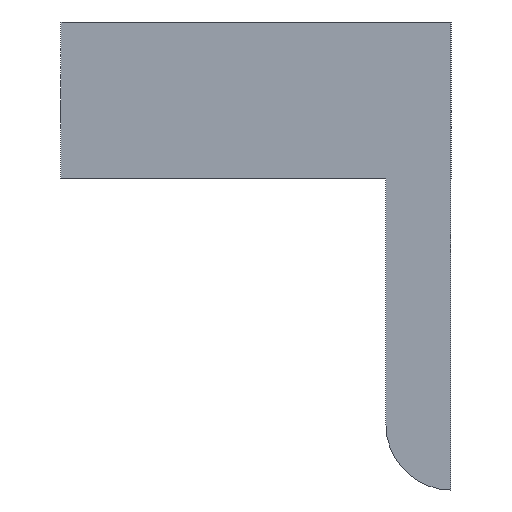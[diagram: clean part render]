
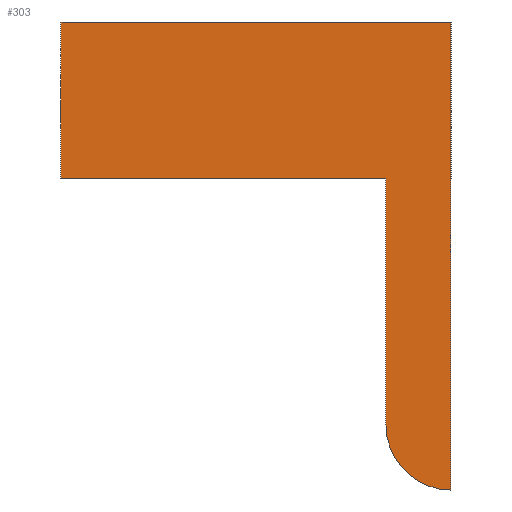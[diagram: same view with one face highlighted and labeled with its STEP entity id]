
A CAD part, left-side view. The second image highlights one B-rep face of the part: STEP entity #303.
In plain terms, the highlighted planar face has unit normal (-1, 0, 0).
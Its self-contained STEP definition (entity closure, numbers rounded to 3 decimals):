
#143 = EDGE_CURVE( '', #191, #177, #386, .T. );
#177 = VERTEX_POINT( '', #423 );
#185 = VERTEX_POINT( '', #431 );
#191 = VERTEX_POINT( '', #439 );
#193 = EDGE_CURVE( '', #357, #261, #441, .T. );
#241 = EDGE_CURVE( '', #265, #357, #492, .T. );
#257 = EDGE_CURVE( '', #177, #265, #509, .T. );
#261 = VERTEX_POINT( '', #513 );
#265 = VERTEX_POINT( '', #517 );
#303 = ADVANCED_FACE( '', ( #559 ), #560, .T. );
#317 = EDGE_CURVE( '', #185, #191, #575, .T. );
#339 = EDGE_CURVE( '', #261, #185, #599, .T. );
#357 = VERTEX_POINT( '', #621 );
#386 = LINE( '', #644, #645 );
#423 = CARTESIAN_POINT( '', ( -4.5, -30., 6. ) );
#431 = CARTESIAN_POINT( '', ( -4.5, -25., -25. ) );
#439 = CARTESIAN_POINT( '', ( -4.5, -30., -30. ) );
#441 = LINE( '', #724, #725 );
#492 = LINE( '', #800, #801 );
#509 = LINE( '', #822, #823 );
#513 = CARTESIAN_POINT( '', ( -4.5, -25., -6. ) );
#517 = CARTESIAN_POINT( '', ( -4.5, 0., 6. ) );
#559 = FACE_OUTER_BOUND( '', #894, .T. );
#560 = PLANE( '', #895 );
#575 = CIRCLE( '', #913, 5. );
#599 = LINE( '', #939, #940 );
#621 = CARTESIAN_POINT( '', ( -4.5, 0., -6. ) );
#644 = CARTESIAN_POINT( '', ( -4.5, -30., -30. ) );
#645 = VECTOR( '', #987, 1. );
#724 = CARTESIAN_POINT( '', ( -4.5, 0., -6. ) );
#725 = VECTOR( '', #1051, 1. );
#800 = CARTESIAN_POINT( '', ( -4.5, 0., 6. ) );
#801 = VECTOR( '', #1103, 1. );
#822 = CARTESIAN_POINT( '', ( -4.5, -30., 6. ) );
#823 = VECTOR( '', #1116, 1. );
#894 = EDGE_LOOP( '', ( #1168, #1169, #1170, #1171, #1172, #1173 ) );
#895 = AXIS2_PLACEMENT_3D( '', #1174, #1175, #1176 );
#913 = AXIS2_PLACEMENT_3D( '', #1189, #1190, #1191 );
#939 = CARTESIAN_POINT( '', ( -4.5, -25., -30. ) );
#940 = VECTOR( '', #1215, 1. );
#987 = DIRECTION( '', ( 0., 0., 1. ) );
#1051 = DIRECTION( '', ( 0., -1., 0. ) );
#1103 = DIRECTION( '', ( 0., 0., -1. ) );
#1116 = DIRECTION( '', ( 0., 1., 0. ) );
#1168 = ORIENTED_EDGE( '', *, *, #317, .T. );
#1169 = ORIENTED_EDGE( '', *, *, #143, .T. );
#1170 = ORIENTED_EDGE( '', *, *, #257, .T. );
#1171 = ORIENTED_EDGE( '', *, *, #241, .T. );
#1172 = ORIENTED_EDGE( '', *, *, #193, .T. );
#1173 = ORIENTED_EDGE( '', *, *, #339, .T. );
#1174 = CARTESIAN_POINT( '', ( -4.5, -30., 6. ) );
#1175 = DIRECTION( '', ( -1., 0., 0. ) );
#1176 = DIRECTION( '', ( 0., 0., 1. ) );
#1189 = CARTESIAN_POINT( '', ( -4.5, -30., -25. ) );
#1190 = DIRECTION( '', ( -1., 0., 0. ) );
#1191 = DIRECTION( '', ( 0., 1., 0. ) );
#1215 = DIRECTION( '', ( 0., 0., -1. ) );
